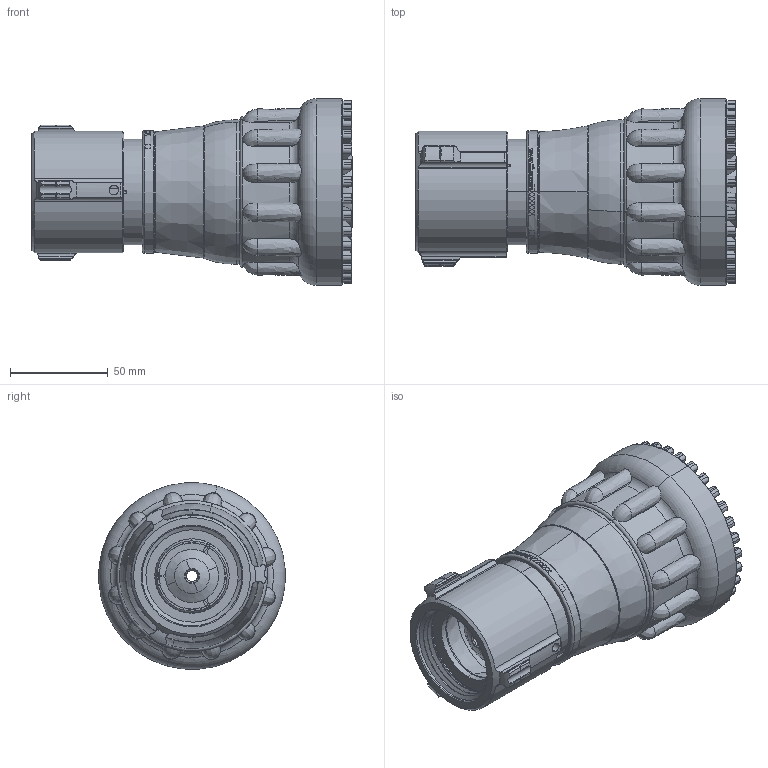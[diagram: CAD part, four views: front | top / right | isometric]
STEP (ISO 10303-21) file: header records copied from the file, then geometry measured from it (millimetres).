
FILE_DESCRIPTION (( 'STEP AP203' ), '1' );
FILE_NAME ('HM-TO.STEP', '2018-07-06T20:12:29', ( 'Windows User' ), ( '' ), 'SwSTEP 2.0', 'SolidWorks 2017', '' );
FILE_SCHEMA (( 'CONFIG_CONTROL_DESIGN' ));
Length unit declared in the file: inch
Products named in the file (2): HM-TO
Bounding box: 163.7 x 95.22 x 95.22 mm (x, y, z)
Surface area: 96503.3 mm2 (no closed solid volume)
Topology: 0 solids, 26 shells, 646 faces, 2394 edges, 1764 vertices
Faces by surface type: cylinder 333, plane 134, cone 92, torus 56, bspline 29, sphere 2
Entity records: 33409 total; most frequent: CARTESIAN_POINT 15143, ORIENTED_EDGE 4050, DIRECTION 3180, EDGE_CURVE 2388, VERTEX_POINT 1764, AXIS2_PLACEMENT_3D 1282, B_SPLINE_CURVE_WITH_KNOTS 870, EDGE_LOOP 695
